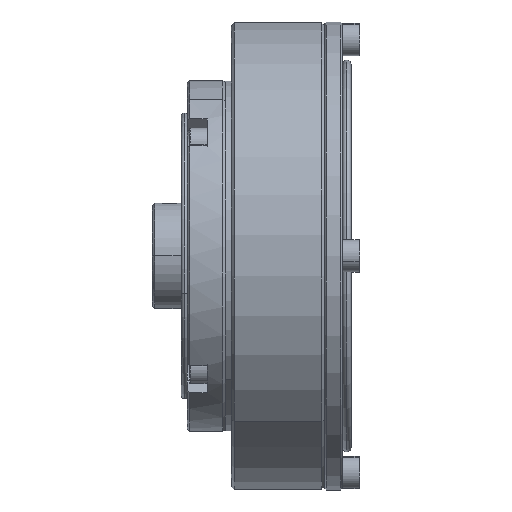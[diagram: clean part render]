
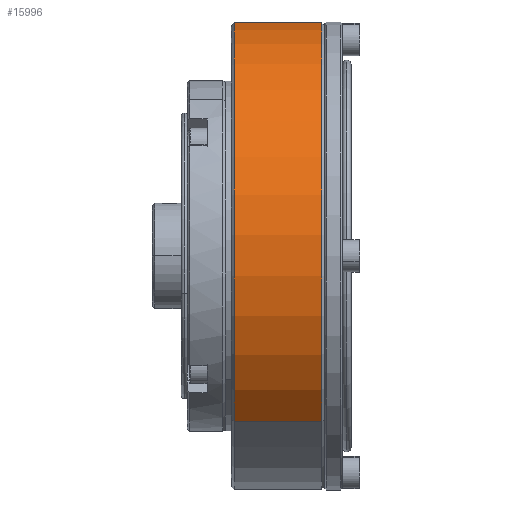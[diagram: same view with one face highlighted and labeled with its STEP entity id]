
A CAD part, top view. The second image highlights one B-rep face of the part: STEP entity #15996.
In plain terms, the highlighted cylindrical face has radius 40 mm (diameter 80 mm), a partial arc.
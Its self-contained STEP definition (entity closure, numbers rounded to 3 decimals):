
#22 = DIRECTION ( 'NONE',  ( 1., 0., 0. ) ) ;
#1625 = DIRECTION ( 'NONE',  ( 1., 0., 0. ) ) ;
#2926 = AXIS2_PLACEMENT_3D ( 'NONE', #10477, #23979, #12432 ) ;
#4826 = CARTESIAN_POINT ( 'NONE',  ( 65.114, -28.284, 28.284 ) ) ;
#6564 = FACE_OUTER_BOUND ( 'NONE', #16562, .T. ) ;
#7366 = EDGE_CURVE ( 'NONE', #9443, #9344, #17287, .T. ) ;
#8590 = EDGE_CURVE ( 'NONE', #12792, #10791, #18162, .T. ) ;
#9317 = CARTESIAN_POINT ( 'NONE',  ( 8.3, -28.284, 28.284 ) ) ;
#9344 = VERTEX_POINT ( 'NONE', #14822 ) ;
#9443 = VERTEX_POINT ( 'NONE', #9317 ) ;
#10477 = CARTESIAN_POINT ( 'NONE',  ( 8.3, 0., 0. ) ) ;
#10768 = CARTESIAN_POINT ( 'NONE',  ( -6.7, 28.284, -28.284 ) ) ;
#10791 = VERTEX_POINT ( 'NONE', #12197 ) ;
#11565 = CARTESIAN_POINT ( 'NONE',  ( -6.7, 0., 0. ) ) ;
#12053 = ORIENTED_EDGE ( 'NONE', *, *, #8590, .T. ) ;
#12197 = CARTESIAN_POINT ( 'NONE',  ( -6.7, -28.284, 28.284 ) ) ;
#12432 = DIRECTION ( 'NONE',  ( 0., -0.707, 0.707 ) ) ;
#12543 = VECTOR ( 'NONE', #18341, 1000. ) ;
#12792 = VERTEX_POINT ( 'NONE', #10768 ) ;
#13143 = LINE ( 'NONE', #4826, #12543 ) ;
#13507 = DIRECTION ( 'NONE',  ( 0., 0.707, -0.707 ) ) ;
#14822 = CARTESIAN_POINT ( 'NONE',  ( 8.3, 28.284, -28.284 ) ) ;
#15043 = DIRECTION ( 'NONE',  ( 0., 0.707, -0.707 ) ) ;
#15109 = VECTOR ( 'NONE', #23020, 1000. ) ;
#15784 = ORIENTED_EDGE ( 'NONE', *, *, #7366, .T. ) ;
#15996 = ADVANCED_FACE ( 'NONE', ( #6564 ), #16245, .T. ) ;
#16245 = CYLINDRICAL_SURFACE ( 'NONE', #19635, 40. ) ;
#16562 = EDGE_LOOP ( 'NONE', ( #12053, #18566, #15784, #17774 ) ) ;
#17287 = CIRCLE ( 'NONE', #2926, 40. ) ;
#17305 = AXIS2_PLACEMENT_3D ( 'NONE', #11565, #22, #13507 ) ;
#17535 = EDGE_CURVE ( 'NONE', #10791, #9443, #13143, .T. ) ;
#17774 = ORIENTED_EDGE ( 'NONE', *, *, #20555, .F. ) ;
#18162 = CIRCLE ( 'NONE', #17305, 40. ) ;
#18341 = DIRECTION ( 'NONE',  ( 1., 0., 0. ) ) ;
#18566 = ORIENTED_EDGE ( 'NONE', *, *, #17535, .T. ) ;
#19635 = AXIS2_PLACEMENT_3D ( 'NONE', #22788, #1625, #15043 ) ;
#20228 = LINE ( 'NONE', #21082, #15109 ) ;
#20555 = EDGE_CURVE ( 'NONE', #12792, #9344, #20228, .T. ) ;
#21082 = CARTESIAN_POINT ( 'NONE',  ( 65.114, 28.284, -28.284 ) ) ;
#22788 = CARTESIAN_POINT ( 'NONE',  ( 65.114, 0., 0. ) ) ;
#23020 = DIRECTION ( 'NONE',  ( 1., 0., 0. ) ) ;
#23979 = DIRECTION ( 'NONE',  ( -1., 0., 0. ) ) ;
